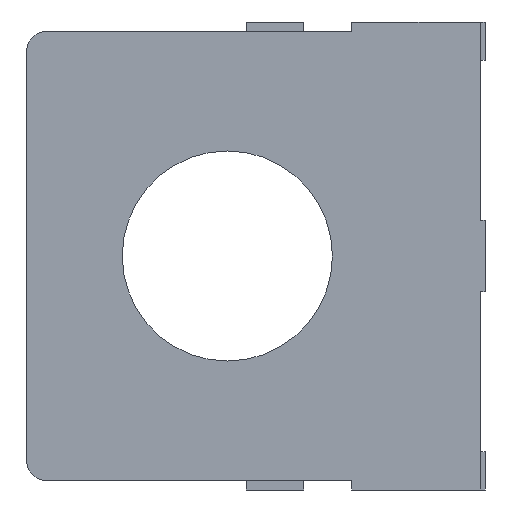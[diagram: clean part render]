
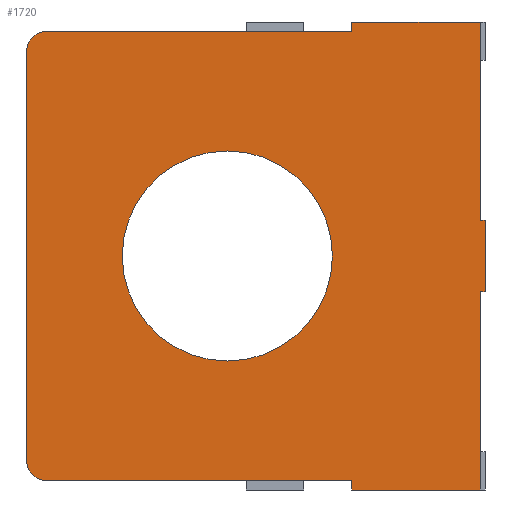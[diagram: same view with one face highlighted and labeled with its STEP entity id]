
A CAD part, left-side view. The second image highlights one B-rep face of the part: STEP entity #1720.
In plain terms, the highlighted planar face has unit normal (-1, 0, 0).
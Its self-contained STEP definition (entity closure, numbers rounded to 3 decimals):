
#16=PLANE('',#1829);
#81=LINE('',#2492,#273);
#86=LINE('',#2506,#278);
#87=LINE('',#2508,#279);
#88=LINE('',#2510,#280);
#89=LINE('',#2512,#281);
#90=LINE('',#2514,#282);
#91=LINE('',#2516,#283);
#92=LINE('',#2518,#284);
#93=LINE('',#2520,#285);
#94=LINE('',#2522,#286);
#95=LINE('',#2524,#287);
#96=LINE('',#2526,#288);
#273=VECTOR('',#1996,43.);
#278=VECTOR('',#2007,32.);
#279=VECTOR('',#2008,1.);
#280=VECTOR('',#2009,13.5);
#281=VECTOR('',#2010,20.75);
#282=VECTOR('',#2011,0.5);
#283=VECTOR('',#2012,7.5);
#284=VECTOR('',#2013,0.5);
#285=VECTOR('',#2014,20.75);
#286=VECTOR('',#2015,13.5);
#287=VECTOR('',#2016,1.);
#288=VECTOR('',#2017,32.);
#467=FACE_BOUND('',#626,.T.);
#522=FACE_OUTER_BOUND('',#625,.T.);
#625=EDGE_LOOP('',(#1233,#1234,#1235,#1236,#1237,#1238,#1239,#1240,#1241,
#1242,#1243,#1244,#1245,#1246));
#626=EDGE_LOOP('',(#1247));
#745=CIRCLE('',#1824,2.);
#749=CIRCLE('',#1830,2.);
#750=CIRCLE('',#1831,11.);
#799=VERTEX_POINT('',#2482);
#800=VERTEX_POINT('',#2483);
#803=VERTEX_POINT('',#2491);
#809=VERTEX_POINT('',#2505);
#810=VERTEX_POINT('',#2507);
#811=VERTEX_POINT('',#2509);
#812=VERTEX_POINT('',#2511);
#813=VERTEX_POINT('',#2513);
#814=VERTEX_POINT('',#2515);
#815=VERTEX_POINT('',#2517);
#816=VERTEX_POINT('',#2519);
#817=VERTEX_POINT('',#2521);
#818=VERTEX_POINT('',#2523);
#819=VERTEX_POINT('',#2525);
#820=VERTEX_POINT('',#2528);
#971=EDGE_CURVE('',#799,#800,#745,.T.);
#975=EDGE_CURVE('',#803,#800,#81,.T.);
#982=EDGE_CURVE('',#799,#809,#86,.T.);
#983=EDGE_CURVE('',#809,#810,#87,.T.);
#984=EDGE_CURVE('',#810,#811,#88,.T.);
#985=EDGE_CURVE('',#811,#812,#89,.T.);
#986=EDGE_CURVE('',#812,#813,#90,.T.);
#987=EDGE_CURVE('',#813,#814,#91,.T.);
#988=EDGE_CURVE('',#814,#815,#92,.T.);
#989=EDGE_CURVE('',#815,#816,#93,.T.);
#990=EDGE_CURVE('',#816,#817,#94,.T.);
#991=EDGE_CURVE('',#817,#818,#95,.T.);
#992=EDGE_CURVE('',#818,#819,#96,.T.);
#993=EDGE_CURVE('',#803,#819,#749,.T.);
#994=EDGE_CURVE('',#820,#820,#750,.T.);
#1233=ORIENTED_EDGE('',*,*,#971,.F.);
#1234=ORIENTED_EDGE('',*,*,#982,.T.);
#1235=ORIENTED_EDGE('',*,*,#983,.T.);
#1236=ORIENTED_EDGE('',*,*,#984,.T.);
#1237=ORIENTED_EDGE('',*,*,#985,.T.);
#1238=ORIENTED_EDGE('',*,*,#986,.T.);
#1239=ORIENTED_EDGE('',*,*,#987,.T.);
#1240=ORIENTED_EDGE('',*,*,#988,.T.);
#1241=ORIENTED_EDGE('',*,*,#989,.T.);
#1242=ORIENTED_EDGE('',*,*,#990,.T.);
#1243=ORIENTED_EDGE('',*,*,#991,.T.);
#1244=ORIENTED_EDGE('',*,*,#992,.T.);
#1245=ORIENTED_EDGE('',*,*,#993,.F.);
#1246=ORIENTED_EDGE('',*,*,#975,.T.);
#1247=ORIENTED_EDGE('',*,*,#994,.T.);
#1720=ADVANCED_FACE('',(#522,#467),#16,.T.);
#1824=AXIS2_PLACEMENT_3D('',#2484,#1988,#1989);
#1829=AXIS2_PLACEMENT_3D('',#2504,#2005,#2006);
#1830=AXIS2_PLACEMENT_3D('',#2527,#2018,#2019);
#1831=AXIS2_PLACEMENT_3D('',#2529,#2020,#2021);
#1988=DIRECTION('center_axis',(1.,0.,0.));
#1989=DIRECTION('ref_axis',(0.,0.707,-0.707));
#1996=DIRECTION('',(0.,0.,-1.));
#2005=DIRECTION('center_axis',(-1.,0.,0.));
#2006=DIRECTION('ref_axis',(0.,0.,1.));
#2007=DIRECTION('',(0.,-1.,0.));
#2008=DIRECTION('',(0.,0.,-1.));
#2009=DIRECTION('',(0.,-1.,0.));
#2010=DIRECTION('',(0.,0.,1.));
#2011=DIRECTION('',(0.,-1.,0.));
#2012=DIRECTION('',(0.,0.,1.));
#2013=DIRECTION('',(0.,1.,0.));
#2014=DIRECTION('',(0.,0.,1.));
#2015=DIRECTION('',(0.,1.,0.));
#2016=DIRECTION('',(0.,0.,-1.));
#2017=DIRECTION('',(0.,1.,0.));
#2018=DIRECTION('center_axis',(1.,0.,0.));
#2019=DIRECTION('ref_axis',(0.,0.707,0.707));
#2020=DIRECTION('center_axis',(1.,0.,0.));
#2021=DIRECTION('ref_axis',(0.,0.,-1.));
#2482=CARTESIAN_POINT('',(-34.75,25.75,-23.5));
#2483=CARTESIAN_POINT('',(-34.75,27.75,-21.5));
#2484=CARTESIAN_POINT('Origin',(-34.75,25.75,-21.5));
#2491=CARTESIAN_POINT('',(-34.75,27.75,21.5));
#2492=CARTESIAN_POINT('',(-34.75,27.75,-24.5));
#2504=CARTESIAN_POINT('Origin',(-34.75,3.75,0.));
#2505=CARTESIAN_POINT('',(-34.75,-6.25,-23.5));
#2506=CARTESIAN_POINT('',(-34.75,7.25,-23.5));
#2507=CARTESIAN_POINT('',(-34.75,-6.25,-24.5));
#2508=CARTESIAN_POINT('',(-34.75,-6.25,-12.25));
#2509=CARTESIAN_POINT('',(-34.75,-19.75,-24.5));
#2510=CARTESIAN_POINT('',(-34.75,-20.25,-24.5));
#2511=CARTESIAN_POINT('',(-34.75,-19.75,-3.75));
#2512=CARTESIAN_POINT('',(-34.75,-19.75,0.));
#2513=CARTESIAN_POINT('',(-34.75,-20.25,-3.75));
#2514=CARTESIAN_POINT('',(-34.75,-8.25,-3.75));
#2515=CARTESIAN_POINT('',(-34.75,-20.25,3.75));
#2516=CARTESIAN_POINT('',(-34.75,-20.25,24.5));
#2517=CARTESIAN_POINT('',(-34.75,-19.75,3.75));
#2518=CARTESIAN_POINT('',(-34.75,-8.25,3.75));
#2519=CARTESIAN_POINT('',(-34.75,-19.75,24.5));
#2520=CARTESIAN_POINT('',(-34.75,-19.75,0.));
#2521=CARTESIAN_POINT('',(-34.75,-6.25,24.5));
#2522=CARTESIAN_POINT('',(-34.75,27.75,24.5));
#2523=CARTESIAN_POINT('',(-34.75,-6.25,23.5));
#2524=CARTESIAN_POINT('',(-34.75,-6.25,12.25));
#2525=CARTESIAN_POINT('',(-34.75,25.75,23.5));
#2526=CARTESIAN_POINT('',(-34.75,7.25,23.5));
#2527=CARTESIAN_POINT('Origin',(-34.75,25.75,21.5));
#2528=CARTESIAN_POINT('',(-34.75,6.75,11.));
#2529=CARTESIAN_POINT('Origin',(-34.75,6.75,0.));
